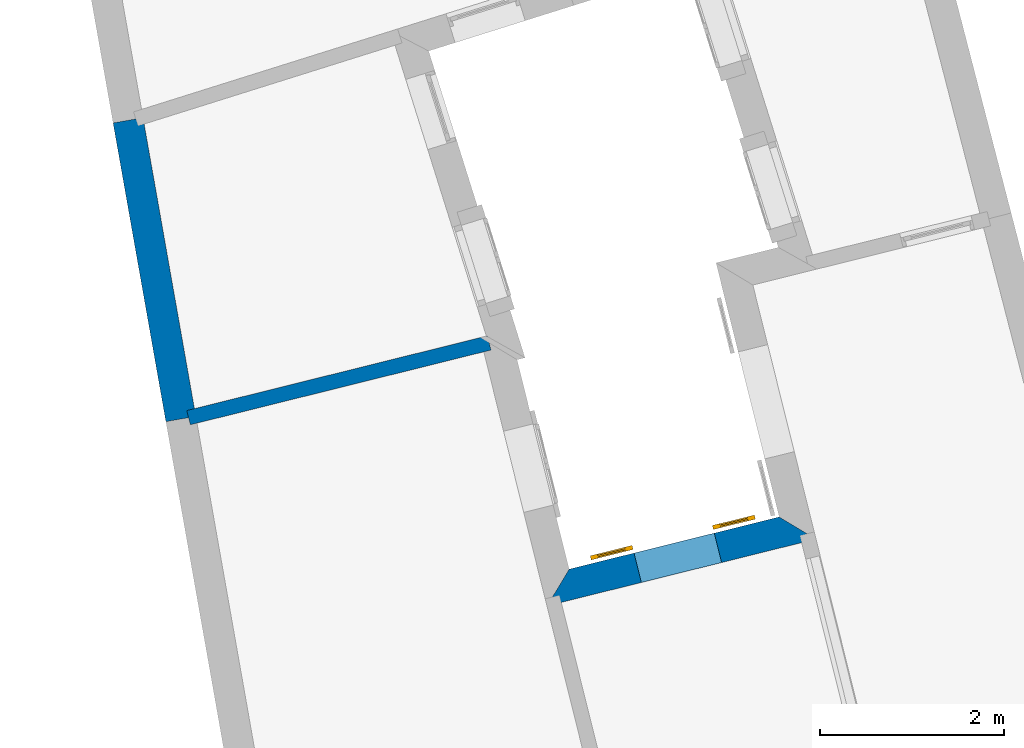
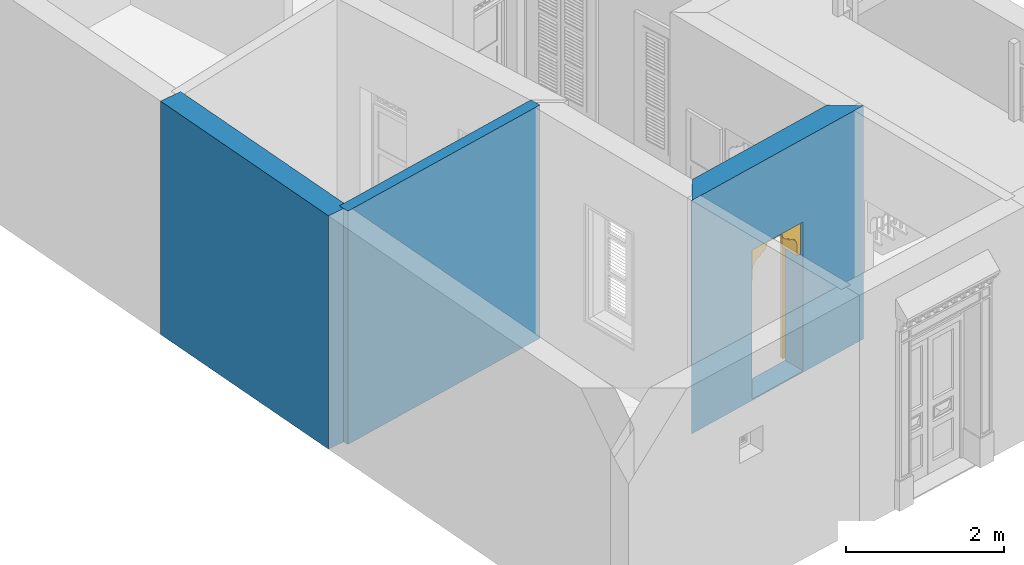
# One storey, part 4 of 14: 3 walls, 1 door, 1 opening.
"""IFC4 building model written with IfcOpenShell, lengths in metres."""

from ifc_helpers import new_model, si_unit, frame, origin, origin_with_axes, place, context, subcontext, project, spatial, polyline, outline, extrude, faceted_brep, source, transform, mapped, material, layer, layer_set, layer_usage, type_object, type_shapes, element, fill, save


model = new_model("IFC4")

# Units and contexts
model_context = context("Model", 3, world=origin_with_axes())
body_context = subcontext(model_context, "Body", "Model", "MODEL_VIEW")
ifc_project = project(units=[si_unit("PLANEANGLEUNIT", "RADIAN"), si_unit("MASSUNIT", "GRAM", prefix="KILO"), si_unit("FORCEUNIT", "NEWTON", prefix="KILO"), si_unit("LENGTHUNIT", "METRE"), si_unit("AREAUNIT", "SQUARE_METRE"), si_unit("VOLUMEUNIT", "CUBIC_METRE")], contexts=[model_context, model_context])

# Site, building, storey
site_placement = place(None, origin_with_axes())
site = spatial("IfcSite", under=ifc_project, at=site_placement, Name="Site plot-0", CompositionType="ELEMENT")
building_placement = place(None, origin_with_axes())
building = spatial("IfcBuilding", under=site, at=building_placement, Name="Building plot-0", CompositionType="ELEMENT")
storey_placement = place(None, origin_with_axes())
storey = spatial("IfcBuildingStorey", under=building, at=storey_placement, Name="plot-0 0", CompositionType="ELEMENT", Elevation=0.0)

# Wall, opening, door
ifc_material_1 = material(Name="Masonry")
ifc_layer_1 = layer(ifc_material_1, 0.33, ventilated=False)
ifc_layer_set_1 = layer_set([ifc_layer_1], Name="exterior_0.08_0.25")
ifc_layer_usage_1 = layer_usage(ifc_layer_set_1, "AXIS2", "POSITIVE", -0.25)
wall_type_1 = type_object("IfcWallType", Name="exterior_0.08_0.25", PredefinedType="SOLIDWALL", material=ifc_layer_set_1)
wall_1_placement = place(storey_placement, frame((7.43920512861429, 3.31131394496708, 0.0), z_axis=(0.0, 0.0, 1.0), x_axis=(-0.970472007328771, -0.241213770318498, 0.0)))
wall_1 = element("IfcWall", 1, at=wall_1_placement, inside=storey, type_object=wall_type_1, material=ifc_layer_usage_1, Name="exterior", context=body_context, shape_type="SweptSolid", body=[
    extrude(outline(polyline([(-0.0800000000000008, 0.0799999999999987), (0.250000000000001, -0.249999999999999), (2.60423418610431, -0.250000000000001), (2.93423418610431, 0.0799999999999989), (-0.0800000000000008, 0.0799999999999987)])), origin_with_axes(), (0.0, 0.0, 1.0), 3.6),
])
opening_placement = place(wall_1_placement, frame((0.977117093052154, 0.0, 0.02)))
opening = element("IfcOpeningElement", 2, at=opening_placement, cuts=wall_1, Name="My Opening", ObjectType="Opening", context=body_context, shape_type="SweptSolid", body=[
    extrude(outline(polyline([(0.0, -0.27), (0.900000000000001, -0.27), (0.900000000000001, 1.1), (1.11022302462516e-16, 1.1), (0.0, -0.27)])), origin_with_axes(), (0.0, 0.0, 1.0), 2.3),
])
door_type = type_object("IfcDoorType", Name="arch-900x2300", OperationType="SINGLE_SWING_LEFT", PredefinedType="NOTDEFINED")
shared_shape = source(origin(), body_context, "Body", "Brep", [
    faceted_brep([(-0.08, -0.02, 0.08), (-0.08, -0.02, 0.0), (-0.39, -0.02, 0.0), (-0.39, -0.02, 0.08), (-0.47, -0.02, 0.0), (-0.47, -0.02, 0.08), (-0.39, -0.035, 0.08), (-0.08, -0.035, 0.08), (0.0, -0.02, 0.08), (0.0, -0.02, 0.0), (-0.08, -0.066, 0.0), (-0.39, -0.066, 0.0), (-0.47, -0.066, 0.0), (-0.47, -0.066, 0.08), (-0.39, -0.02, 0.743333), (-0.47, -0.02, 0.743333), (-0.39, -0.035, 0.743333), (-0.08, -0.035, 0.743333), (-0.08, -0.02, 0.743333), (0.0, -0.02, 0.743333), (0.0, -0.066, 0.08), (0.0, -0.066, 0.0), (-0.39, -0.066, 0.08), (-0.08, -0.066, 0.08), (-0.47, -0.066, 0.743333), (-0.39, -0.02, 0.823333), (-0.47, -0.02, 0.823333), (0.0, -0.066, 0.743333), (0.0, -0.02, 0.823333), (-0.08, -0.02, 0.823333), (-0.08, -0.051, 0.08), (-0.39, -0.051, 0.08), (-0.39, -0.066, 0.743333), (-0.47, -0.066, 0.823333), (-0.39, -0.02, 1.486667), (-0.47, -0.02, 1.486667), (0.0, -0.066, 0.823333), (-0.08, -0.066, 0.743333), (0.0, -0.02, 1.486667), (-0.08, -0.02, 1.486667), (-0.08, -0.051, 0.743333), (-0.39, -0.051, 0.743333), (-0.39, -0.066, 0.823333), (-0.47, -0.066, 1.486667), (-0.39, -0.035, 0.823333), (-0.08, -0.035, 0.823333), (-0.39, -0.035, 1.486667), (-0.39, -0.02, 1.566667), (-0.47, -0.02, 1.566667), (0.0, -0.066, 1.486667), (-0.08, -0.066, 0.823333), (-0.08, -0.035, 1.486667), (0.0, -0.02, 1.566667), (-0.08, -0.02, 1.566667), (-0.39, -0.066, 1.486667), (-0.47, -0.066, 1.566667), (-0.39, -0.02, 2.23), (-0.47, -0.02, 2.23), (0.0, -0.066, 1.566667), (-0.08, -0.066, 1.486667), (0.0, -0.02, 2.23), (-0.08, -0.02, 2.23), (-0.08, -0.051, 0.823333), (-0.39, -0.051, 0.823333), (-0.39, -0.051, 1.486667), (-0.39, -0.066, 1.566667), (-0.47, -0.066, 2.23), (-0.39, -0.035, 1.566667), (-0.08, -0.035, 1.566667), (-0.39, -0.035, 2.23), (-0.39, -0.02, 2.31), (-0.47, -0.02, 2.31), (0.0, -0.066, 2.23), (-0.08, -0.066, 1.566667), (-0.08, -0.051, 1.486667), (-0.08, -0.035, 2.23), (0.0, -0.02, 2.31), (-0.08, -0.02, 2.31), (-0.39, -0.066, 2.23), (-0.47, -0.066, 2.31), (-0.39, -0.066, 2.31), (0.0, -0.066, 2.31), (-0.08, -0.066, 2.23), (-0.08, -0.066, 2.31), (-0.08, -0.051, 1.566667), (-0.39, -0.051, 1.566667), (-0.39, -0.051, 2.23), (-0.08, -0.051, 2.23), (1.29, -0.02, 0.08), (1.29, -0.02, 0.0), (0.98, -0.02, 0.0), (0.98, -0.02, 0.08), (1.37, -0.02, 0.08), (1.37, -0.02, 0.0), (0.98, -0.035, 0.08), (1.29, -0.035, 0.08), (0.9, -0.02, 0.0), (0.9, -0.02, 0.08), (1.29, -0.066, 0.0), (0.98, -0.066, 0.0), (1.37, -0.066, 0.08), (1.37, -0.066, 0.0), (1.37, -0.02, 0.743333), (1.29, -0.02, 0.743333), (1.29, -0.035, 0.743333), (0.98, -0.035, 0.743333), (0.98, -0.02, 0.743333), (0.9, -0.02, 0.743333), (0.9, -0.066, 0.0), (0.9, -0.066, 0.08), (0.98, -0.066, 0.08), (1.29, -0.066, 0.08), (1.37, -0.066, 0.743333), (1.37, -0.02, 0.823333), (1.29, -0.02, 0.823333), (0.9, -0.066, 0.743333), (0.98, -0.02, 0.823333), (0.9, -0.02, 0.823333), (1.29, -0.051, 0.08), (0.98, -0.051, 0.08), (1.29, -0.066, 0.743333), (1.37, -0.066, 0.823333), (1.37, -0.02, 1.486667), (1.29, -0.02, 1.486667), (0.9, -0.066, 0.823333), (0.98, -0.066, 0.743333), (0.98, -0.02, 1.486667), (0.9, -0.02, 1.486667), (0.98, -0.051, 0.743333), (1.29, -0.051, 0.743333), (1.29, -0.066, 0.823333), (1.37, -0.066, 1.486667), (0.98, -0.035, 0.823333), (1.29, -0.035, 0.823333), (1.29, -0.035, 1.486667), (1.37, -0.02, 1.566667), (1.29, -0.02, 1.566667), (0.9, -0.066, 1.486667), (0.98, -0.066, 0.823333), (0.98, -0.035, 1.486667), (0.98, -0.02, 1.566667), (0.9, -0.02, 1.566667), (1.29, -0.066, 1.486667), (1.37, -0.066, 1.566667), (1.37, -0.02, 2.23), (1.29, -0.02, 2.23), (0.9, -0.066, 1.566667), (0.98, -0.066, 1.486667), (0.98, -0.02, 2.23), (0.9, -0.02, 2.23), (1.29, -0.051, 0.823333), (0.98, -0.051, 0.823333), (1.29, -0.051, 1.486667), (1.29, -0.066, 1.566667), (1.37, -0.066, 2.23), (0.98, -0.035, 1.566667), (1.29, -0.035, 1.566667), (1.29, -0.035, 2.23), (1.37, -0.02, 2.31), (1.29, -0.02, 2.31), (0.9, -0.066, 2.23), (0.98, -0.066, 1.566667), (0.98, -0.051, 1.486667), (0.98, -0.035, 2.23), (0.98, -0.02, 2.31), (0.9, -0.02, 2.31), (1.29, -0.066, 2.23), (1.37, -0.066, 2.31), (1.29, -0.066, 2.31), (0.9, -0.066, 2.31), (0.98, -0.066, 2.23), (0.98, -0.066, 2.31), (1.29, -0.051, 1.566667), (0.98, -0.051, 1.566667), (1.29, -0.051, 2.23), (0.98, -0.051, 2.23), (0.9, 0.03, 1.78), (0.9, 0.03, 1.95), (0.84, 0.03, 1.95), (0.84, 0.03, 1.78), (0.84, 0.3, 1.95), (0.84, 0.3, 1.78), (0.9, 0.03, 2.12), (0.829, 0.03, 2.004), (0.9, 0.3, 1.78), (0.9, 0.3, 1.95), (0.829, 0.3, 2.004), (0.799, 0.03, 2.049), (0.9, 0.3, 2.12), (0.799, 0.3, 2.049), (0.754, 0.03, 2.079), (0.9, 0.3, 2.29), (0.9, 0.03, 2.29), (0.754, 0.3, 2.079), (0.7, 0.03, 2.09), (0.7, 0.03, 2.12), (0.654, 0.03, 2.129), (0.58, 0.3, 2.29), (0.58, 0.03, 2.29), (0.7, 0.3, 2.12), (0.654, 0.3, 2.129), (0.7, 0.3, 2.09), (0.615, 0.03, 2.155), (0.589, 0.3, 2.194), (0.58, 0.3, 2.24), (0.58, 0.03, 2.24), (0.589, 0.03, 2.194), (0.615, 0.3, 2.155), (0.06, 0.03, 1.78), (0.06, 0.03, 1.95), (0.0, 0.03, 1.95), (0.0, 0.03, 1.78), (0.06, 0.3, 1.78), (0.06, 0.3, 1.95), (0.071, 0.03, 2.004), (0.0, 0.03, 2.12), (0.0, 0.3, 1.95), (0.0, 0.3, 1.78), (0.071, 0.3, 2.004), (0.101, 0.03, 2.049), (0.0, 0.3, 2.12), (0.101, 0.3, 2.049), (0.146, 0.03, 2.079), (0.0, 0.03, 2.29), (0.0, 0.3, 2.29), (0.146, 0.3, 2.079), (0.2, 0.03, 2.12), (0.2, 0.03, 2.09), (0.246, 0.03, 2.129), (0.32, 0.03, 2.29), (0.32, 0.3, 2.29), (0.246, 0.3, 2.129), (0.2, 0.3, 2.12), (0.2, 0.3, 2.09), (0.285, 0.03, 2.155), (0.32, 0.3, 2.24), (0.311, 0.3, 2.194), (0.311, 0.03, 2.194), (0.32, 0.03, 2.24), (0.285, 0.3, 2.155)], [[[0, 1, 2, 3]], [[4, 5, 3, 2]], [[0, 3, 6, 7]], [[1, 0, 8, 9]], [[2, 1, 10, 11]], [[5, 4, 12, 13]], [[14, 3, 5, 15]], [[4, 2, 11, 12]], [[3, 14, 16, 6]], [[6, 16, 17, 7]], [[18, 0, 7, 17]], [[0, 18, 19, 8]], [[9, 8, 20, 21]], [[1, 9, 21, 10]], [[22, 11, 10, 23]], [[13, 12, 11, 22]], [[15, 5, 13, 24]], [[25, 14, 15, 26]], [[14, 18, 17, 16]], [[8, 19, 27, 20]], [[28, 19, 18, 29]], [[23, 10, 21, 20]], [[22, 23, 30, 31]], [[22, 32, 24, 13]], [[26, 15, 24, 33]], [[29, 18, 14, 25]], [[34, 25, 26, 35]], [[19, 28, 36, 27]], [[20, 27, 37, 23]], [[38, 28, 29, 39]], [[23, 37, 40, 30]], [[41, 31, 30, 40]], [[32, 22, 31, 41]], [[32, 42, 33, 24]], [[35, 26, 33, 43]], [[29, 25, 44, 45]], [[25, 34, 46, 44]], [[47, 34, 35, 48]], [[28, 38, 49, 36]], [[27, 36, 50, 37]], [[39, 29, 45, 51]], [[52, 38, 39, 53]], [[37, 32, 41, 40]], [[37, 50, 42, 32]], [[42, 54, 43, 33]], [[48, 35, 43, 55]], [[44, 46, 51, 45]], [[34, 39, 51, 46]], [[34, 47, 53, 39]], [[56, 47, 48, 57]], [[38, 52, 58, 49]], [[36, 49, 59, 50]], [[60, 52, 53, 61]], [[42, 50, 62, 63]], [[54, 42, 63, 64]], [[54, 65, 55, 43]], [[57, 48, 55, 66]], [[53, 47, 67, 68]], [[47, 56, 69, 67]], [[70, 56, 57, 71]], [[52, 60, 72, 58]], [[49, 58, 73, 59]], [[50, 59, 74, 62]], [[61, 53, 68, 75]], [[76, 60, 61, 77]], [[64, 63, 62, 74]], [[59, 54, 64, 74]], [[65, 54, 59, 73]], [[65, 78, 66, 55]], [[71, 57, 66, 79]], [[67, 69, 75, 68]], [[56, 61, 75, 69]], [[77, 61, 56, 70]], [[70, 71, 79, 80]], [[60, 76, 81, 72]], [[58, 72, 82, 73]], [[76, 77, 83, 81]], [[65, 73, 84, 85]], [[78, 65, 85, 86]], [[78, 80, 79, 66]], [[77, 70, 80, 83]], [[72, 81, 83, 82]], [[73, 82, 87, 84]], [[86, 85, 84, 87]], [[82, 78, 86, 87]], [[82, 83, 80, 78]], [[88, 89, 90, 91]], [[89, 88, 92, 93]], [[94, 95, 88, 91]], [[96, 97, 91, 90]], [[98, 99, 90, 89]], [[100, 101, 93, 92]], [[102, 92, 88, 103]], [[101, 98, 89, 93]], [[95, 104, 103, 88]], [[94, 105, 104, 95]], [[105, 94, 91, 106]], [[97, 107, 106, 91]], [[108, 109, 97, 96]], [[99, 108, 96, 90]], [[110, 99, 98, 111]], [[111, 98, 101, 100]], [[112, 100, 92, 102]], [[113, 102, 103, 114]], [[104, 105, 106, 103]], [[109, 115, 107, 97]], [[116, 106, 107, 117]], [[109, 108, 99, 110]], [[118, 119, 110, 111]], [[100, 112, 120, 111]], [[121, 112, 102, 113]], [[114, 103, 106, 116]], [[122, 113, 114, 123]], [[115, 124, 117, 107]], [[110, 125, 115, 109]], [[126, 116, 117, 127]], [[119, 128, 125, 110]], [[128, 119, 118, 129]], [[129, 118, 111, 120]], [[112, 121, 130, 120]], [[131, 121, 113, 122]], [[132, 133, 114, 116]], [[133, 134, 123, 114]], [[135, 122, 123, 136]], [[124, 137, 127, 117]], [[125, 138, 124, 115]], [[139, 132, 116, 126]], [[140, 126, 127, 141]], [[128, 129, 120, 125]], [[120, 130, 138, 125]], [[121, 131, 142, 130]], [[143, 131, 122, 135]], [[132, 139, 134, 133]], [[134, 139, 126, 123]], [[126, 140, 136, 123]], [[144, 135, 136, 145]], [[137, 146, 141, 127]], [[138, 147, 137, 124]], [[148, 140, 141, 149]], [[150, 151, 138, 130]], [[152, 150, 130, 142]], [[131, 143, 153, 142]], [[154, 143, 135, 144]], [[155, 156, 136, 140]], [[156, 157, 145, 136]], [[158, 144, 145, 159]], [[146, 160, 149, 141]], [[147, 161, 146, 137]], [[151, 162, 147, 138]], [[163, 155, 140, 148]], [[164, 148, 149, 165]], [[162, 151, 150, 152]], [[162, 152, 142, 147]], [[161, 147, 142, 153]], [[143, 154, 166, 153]], [[167, 154, 144, 158]], [[155, 163, 157, 156]], [[157, 163, 148, 145]], [[159, 145, 148, 164]], [[168, 167, 158, 159]], [[160, 169, 165, 149]], [[161, 170, 160, 146]], [[169, 171, 164, 165]], [[172, 173, 161, 153]], [[174, 172, 153, 166]], [[154, 167, 168, 166]], [[171, 168, 159, 164]], [[170, 171, 169, 160]], [[173, 175, 170, 161]], [[175, 173, 172, 174]], [[175, 174, 166, 170]], [[166, 168, 171, 170]], [[176, 177, 178, 179]], [[180, 181, 179, 178]], [[177, 182, 183, 178]], [[177, 176, 184, 185]], [[181, 184, 176, 179]], [[181, 180, 185, 184]], [[186, 180, 178, 183]], [[182, 187, 183]], [[182, 177, 185, 188]], [[180, 186, 188, 185]], [[189, 186, 183, 187]], [[182, 190, 187]], [[188, 191, 192, 182]], [[188, 186, 189]], [[193, 189, 187, 190]], [[194, 190, 182, 195]], [[182, 192, 196, 195]], [[192, 191, 197, 198]], [[199, 200, 191, 188]], [[188, 189, 193]], [[201, 193, 190, 194]], [[199, 201, 194, 195]], [[200, 199, 195, 196]], [[192, 202, 196]], [[191, 203, 204, 197]], [[192, 198, 205, 206]], [[207, 191, 200]], [[199, 188, 193, 201]], [[207, 200, 196, 202]], [[192, 206, 202]], [[204, 203, 206, 205]], [[203, 191, 207]], [[203, 207, 202, 206]], [[208, 209, 210, 211]], [[209, 208, 212, 213]], [[209, 214, 215, 210]], [[211, 210, 216, 217]], [[208, 211, 217, 212]], [[217, 216, 213, 212]], [[214, 209, 213, 218]], [[214, 219, 215]], [[220, 216, 210, 215]], [[216, 220, 218, 213]], [[219, 214, 218, 221]], [[219, 222, 215]], [[215, 223, 224, 220]], [[221, 218, 220]], [[222, 219, 221, 225]], [[226, 215, 222, 227]], [[226, 228, 223, 215]], [[229, 230, 224, 223]], [[220, 224, 231, 232]], [[225, 221, 220]], [[227, 222, 225, 233]], [[226, 227, 233, 232]], [[228, 226, 232, 231]], [[228, 234, 223]], [[230, 235, 236, 224]], [[237, 238, 229, 223]], [[231, 224, 239]], [[233, 225, 220, 232]], [[234, 228, 231, 239]], [[234, 237, 223]], [[238, 237, 236, 235]], [[239, 224, 236]], [[237, 234, 239, 236]], [[238, 235, 204, 205]], [[235, 230, 197, 204]], [[229, 238, 205, 198]], [[230, 229, 198, 197]]]),
])
type_shapes(door_type, [shared_shape])
door_placement = place(storey_placement, frame((6.42581262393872, 3.33764728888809, 0.02), z_axis=(0.0, 0.0, 1.0), x_axis=(-0.873424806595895, -0.217092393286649, 0.0)))
door = element("IfcDoor", 3, at=door_placement, inside=storey, type_object=door_type, Name="circulation sahn door", OverallHeight=2.3, OverallWidth=0.9, context=body_context, shape_type="MappedRepresentation", body=[
    mapped(shared_shape, transform((0.0, 0.0, 0.0), scale=1.0)),
])
fill(opening, door)

# Walls
ifc_material_2 = material(Name="Masonry")
ifc_layer_2 = layer(ifc_material_2, 0.33, ventilated=False)
ifc_layer_set_2 = layer_set([ifc_layer_2], Name="party_0.08_0.25")
ifc_layer_usage_2 = layer_usage(ifc_layer_set_2, "AXIS2", "POSITIVE", -0.25)
wall_type_2 = type_object("IfcWallType", Name="party_0.08_0.25", PredefinedType="SOLIDWALL", material=ifc_layer_set_2)
wall_2_placement = place(storey_placement, frame((0.138960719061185, 7.822206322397, 0.0), z_axis=(0.0, 0.0, 1.0), x_axis=(0.174013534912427, -0.984743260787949, 0.0)))
element("IfcWall", 4, at=wall_2_placement, inside=storey, type_object=wall_type_2, material=ifc_layer_usage_2, Name="party", context=body_context, shape_type="SweptSolid", body=[
    extrude(outline(polyline([(4.84514933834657e-16, 0.0799999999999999), (-2.67968859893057e-16, -0.25), (3.2989511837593, -0.25), (3.2989511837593, 0.08), (4.84514933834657e-16, 0.0799999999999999)])), origin_with_axes(), (0.0, 0.0, 1.0), 3.6),
])
ifc_material_3 = material(Name="Masonry")
ifc_layer_3 = layer(ifc_material_3, 0.16, ventilated=False)
ifc_layer_set_3 = layer_set([ifc_layer_3], Name="interior_0.08_0.08")
ifc_layer_usage_3 = layer_usage(ifc_layer_set_3, "AXIS2", "POSITIVE", -0.08)
wall_type_3 = type_object("IfcWallType", Name="interior_0.08_0.08", PredefinedType="SOLIDWALL", material=ifc_layer_set_3)
wall_3_placement = place(storey_placement, frame((3.98240711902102, 5.38620177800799, 0.0), z_axis=(0.0, 0.0, 1.0), x_axis=(-0.970472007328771, -0.2412137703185, 0.0)))
element("IfcWall", 5, at=wall_3_placement, inside=storey, type_object=wall_type_3, material=ifc_layer_usage_3, Name="interior", context=body_context, shape_type="SweptSolid", body=[
    extrude(outline(polyline([(-3.69967129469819e-16, 0.0800000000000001), (-6.61556863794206e-17, -0.08), (3.3688599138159, -0.0799999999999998), (3.3688599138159, 0.0800000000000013), (-3.69967129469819e-16, 0.0800000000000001)])), origin_with_axes(), (0.0, 0.0, 1.0), 3.6),
])

save(model, "model.ifc")
